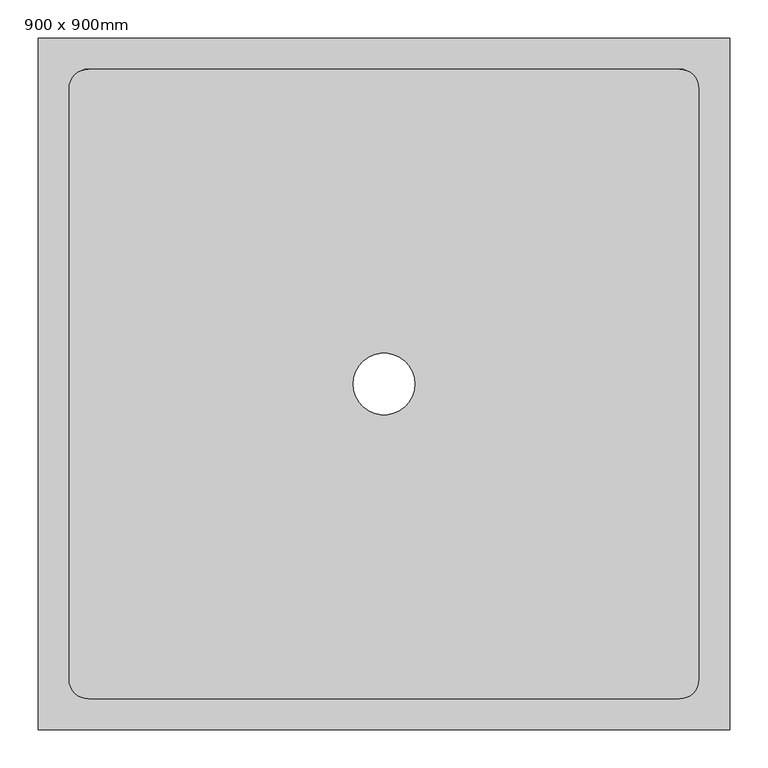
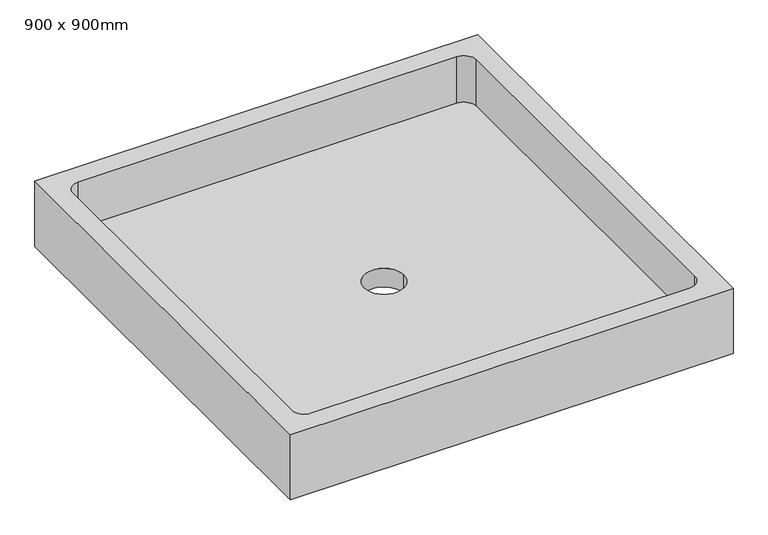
"""IFC4 building model written with IfcOpenShell, lengths in millimetres: flow terminal geometry, Receveur d'angle - Vidange axée : 900 x 900mm."""

from ifc_helpers import new_model, si_unit, frame, origin, origin_with_axes, place, context, project, spatial, polyline, circle_curve, source, transform, mapped, element, save
from ifc_brep_helpers import plane_surface, revolved_surface, advanced_brep


def flow_terminal_900_x_900mm_b36db4aa(model_context):
    return source(origin(), model_context, "Body", "AdvancedBrep", [
        advanced_brep(
        [(450.0, 450.0, 140.0), (-450.0, 450.0, 140.0), (-450.0, -450.0, 140.0), (450.0, -450.0, 140.0), (410.0, -384.6, 140.0), (384.6, -410.0, 140.0), (-384.6, -410.0, 140.0), (-410.0, -384.6, 140.0), (-410.0, 384.6, 140.0), (-384.6, 410.0, 140.0), (384.6, 410.0, 140.0), (410.0, 384.6, 140.0), (450.0, 450.0, 0.0), (450.0, -450.0, 0.0), (-450.0, -450.0, 0.0), (-450.0, 450.0, 0.0), (-40.0, 0.0, 0.0), (40.0, 0.0, 0.0), (384.6, -410.0, 40.0), (410.0, -384.6, 40.0), (410.0, 384.6, 40.0), (384.6, 410.0, 40.0), (-384.6, 410.0, 40.0), (-410.0, 384.6, 40.0), (-410.0, -384.6, 40.0), (-384.6, -410.0, 40.0), (40.0, 0.0, 40.0), (-40.0, 0.0, 40.0)],
        [
            (0, 1),
            (1, 2),
            (2, 3),
            (3, 0),
            (4, 5, circle_curve(frame((384.6, -384.6, 140.0), z_axis=(0.0, 0.0, -1.0), x_axis=(1.0, 0.0, 0.0)), 25.4)),
            (5, 6),
            (6, 7, circle_curve(frame((-384.6, -384.6, 140.0), z_axis=(0.0, 0.0, -1.0), x_axis=(1.0, 0.0, 0.0)), 25.4)),
            (7, 8),
            (8, 9, circle_curve(frame((-384.6, 384.6, 140.0), z_axis=(0.0, 0.0, -1.0), x_axis=(1.0, 0.0, 0.0)), 25.4)),
            (9, 10),
            (10, 11, circle_curve(frame((384.6, 384.6, 140.0), z_axis=(0.0, 0.0, -1.0), x_axis=(1.0, 0.0, 0.0)), 25.4)),
            (11, 4),
            (12, 13),
            (13, 14),
            (14, 15),
            (15, 12),
            (16, 17, circle_curve(origin_with_axes(), 40.0)),
            (17, 16, circle_curve(origin_with_axes(), 40.0)),
            (0, 12),
            (15, 1),
            (14, 2),
            (13, 3),
            (18, 19, circle_curve(frame((384.6, -384.6, 40.0), z_axis=(0.0, 0.0, 1.0), x_axis=(1.0, 0.0, 0.0)), 25.4)),
            (19, 20),
            (20, 21, circle_curve(frame((384.6, 384.6, 40.0), z_axis=(0.0, 0.0, 1.0), x_axis=(1.0, 0.0, 0.0)), 25.4)),
            (21, 22),
            (22, 23, circle_curve(frame((-384.6, 384.6, 40.0), z_axis=(0.0, 0.0, 1.0), x_axis=(1.0, 0.0, 0.0)), 25.4)),
            (23, 24),
            (24, 25, circle_curve(frame((-384.6, -384.6, 40.0), z_axis=(0.0, 0.0, 1.0), x_axis=(1.0, 0.0, 0.0)), 25.4)),
            (25, 18),
            (26, 27, circle_curve(frame((0.0, 0.0, 40.0), z_axis=(0.0, 0.0, -1.0), x_axis=(1.0, 0.0, 0.0)), 40.0)),
            (27, 26, circle_curve(frame((0.0, 0.0, 40.0), z_axis=(0.0, 0.0, -1.0), x_axis=(1.0, 0.0, 0.0)), 40.0)),
            (18, 5),
            (4, 19),
            (11, 20),
            (10, 21),
            (9, 22),
            (8, 23),
            (7, 24),
            (6, 25),
            (16, 27),
            (26, 17),
        ],
        [
            plane_surface(frame((-450.0, 450.0, 140.0), z_axis=(0.0, 0.0, 1.0), x_axis=(-1.0, 0.0, 0.0))),
            plane_surface(frame((-450.0, 450.0, 0.0), z_axis=(0.0, 0.0, -1.0), x_axis=(1.0, 0.0, 0.0))),
            plane_surface(frame((450.0, 450.0, 140.0), z_axis=(0.0, 1.0, 0.0), x_axis=(0.0, 0.0, -1.0))),
            plane_surface(frame((-450.0, 450.0, 140.0), z_axis=(-1.0, 0.0, 0.0), x_axis=(0.0, 0.0, -1.0))),
            plane_surface(frame((-450.0, -450.0, 140.0), z_axis=(0.0, -1.0, 0.0), x_axis=(0.0, 0.0, -1.0))),
            plane_surface(frame((450.0, -450.0, 140.0), z_axis=(1.0, 0.0, 0.0), x_axis=(0.0, 0.0, -1.0))),
            plane_surface(frame((410.0, -384.6, 40.0), z_axis=(0.0, 0.0, 1.0), x_axis=(0.0, -1.0, 0.0))),
            revolved_surface(polyline([(410.0, -384.6, 140.0), (410.0, -384.6, 40.0)]), (384.6, -384.6, 40.0), (0.0, 0.0, 1.0)),
            plane_surface(frame((410.0, -384.6, 140.0), z_axis=(-1.0, 0.0, 0.0), x_axis=(0.0, 0.0, -1.0))),
            revolved_surface(polyline([(410.0, 384.6, 140.0), (410.0, 384.6, 40.0)]), (384.6, 384.6, 40.0), (0.0, 0.0, 1.0)),
            plane_surface(frame((384.6, 410.0, 140.0), z_axis=(0.0, -1.0, 0.0), x_axis=(0.0, 0.0, -1.0))),
            revolved_surface(polyline([(-359.20000000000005, 384.6, 140.0), (-359.20000000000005, 384.6, 40.0)]), (-384.6, 384.6, 40.0), (0.0, 0.0, 1.0)),
            plane_surface(frame((-410.0, 384.6, 140.0), z_axis=(1.0, 0.0, 0.0), x_axis=(0.0, 0.0, -1.0))),
            revolved_surface(polyline([(-359.20000000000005, -384.6, 140.0), (-359.20000000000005, -384.6, 40.0)]), (-384.6, -384.6, 40.0), (0.0, 0.0, 1.0)),
            plane_surface(frame((-384.6, -410.0, 140.0), z_axis=(0.0, 1.0, 0.0), x_axis=(0.0, 0.0, -1.0))),
            revolved_surface(polyline([(40.0, 0.0, 40.0), (40.0, 0.0, 0.0)]), (0.0, 0.0, 0.0), (0.0, 0.0, 1.0)),
        ],
        [
            (0, [[1, 2, 3, 4], [5, 6, 7, 8, 9, 10, 11, 12]]),
            (1, [[13, 14, 15, 16], [17, 18]]),
            (2, [[-1, 19, -16, 20]]),
            (3, [[-2, -20, -15, 21]]),
            (4, [[-3, -21, -14, 22]]),
            (5, [[-4, -22, -13, -19]]),
            (6, [[23, 24, 25, 26, 27, 28, 29, 30], [31, 32]]),
            (7, [[-23, 33, -5, 34]]),
            (8, [[-24, -34, -12, 35]]),
            (9, [[-25, -35, -11, 36]]),
            (10, [[-26, -36, -10, 37]]),
            (11, [[-27, -37, -9, 38]]),
            (12, [[-28, -38, -8, 39]]),
            (13, [[-29, -39, -7, 40]]),
            (14, [[-30, -40, -6, -33]]),
            (15, [[41, -31, 42, -17]]),
            (15, [[-41, -18, -42, -32]]),
        ],
    ),
    ])


if __name__ == "__main__":
    model = new_model("IFC4")
    model_context = context("Model", 3, world=origin())
    ifc_project = project(units=[si_unit("LENGTHUNIT", "METRE", prefix="MILLI")], contexts=[model_context])
    site = spatial("IfcSite", under=ifc_project)
    building = spatial("IfcBuilding", under=site)
    placement = place(None, origin())
    flow_terminal_900_x_900mm_shape = flow_terminal_900_x_900mm_b36db4aa(model_context)
    element("IfcFlowTerminal", 1, ObjectType="Receveur d'angle - Vidange axée : 900 x 900mm", at=placement, inside=building, context=model_context, shape_type="MappedRepresentation", body=[
        mapped(flow_terminal_900_x_900mm_shape, transform((0.0, 0.0, 0.0), x_axis=(1.0, 0.0, 0.0), y_axis=(0.0, 1.0, 0.0), z_axis=(0.0, 0.0, 1.0))),
    ])
    save(model, "model.ifc")
